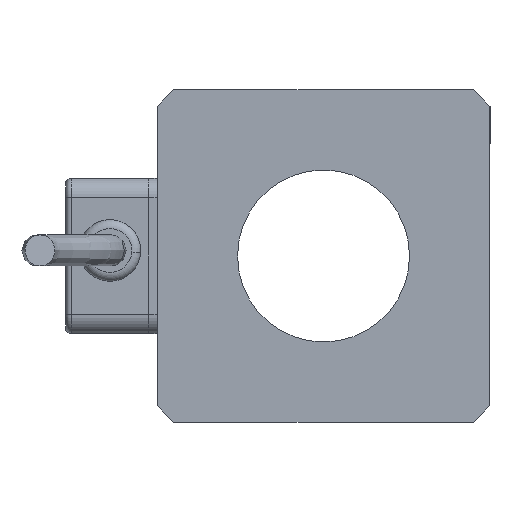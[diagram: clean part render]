
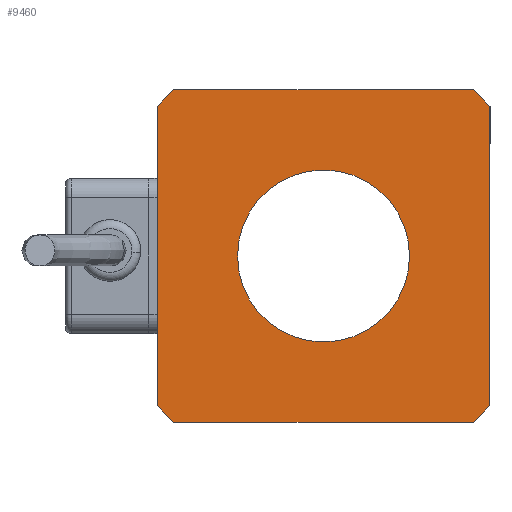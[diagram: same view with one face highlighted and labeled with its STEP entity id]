
A CAD part, left-side view. The second image highlights one B-rep face of the part: STEP entity #9460.
In plain terms, the highlighted planar face has unit normal (-1, 0, 0).
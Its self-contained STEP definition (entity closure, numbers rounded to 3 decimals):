
#5 = EDGE_CURVE ( 'NONE', #9505, #9610, #5671, .T. ) ;
#144 = LINE ( 'NONE', #1453, #3889 ) ;
#565 = EDGE_LOOP ( 'NONE', ( #4232, #2871 ) ) ;
#726 = VERTEX_POINT ( 'NONE', #8442 ) ;
#785 = DIRECTION ( 'NONE',  ( 1., 0., 0. ) ) ;
#815 = CARTESIAN_POINT ( 'NONE',  ( -36., 0., 15.5 ) ) ;
#831 = CIRCLE ( 'NONE', #6227, 15.5 ) ;
#1006 = VERTEX_POINT ( 'NONE', #3938 ) ;
#1015 = VERTEX_POINT ( 'NONE', #7957 ) ;
#1213 = CARTESIAN_POINT ( 'NONE',  ( -36., 0., -15.5 ) ) ;
#1215 = VERTEX_POINT ( 'NONE', #5899 ) ;
#1218 = DIRECTION ( 'NONE',  ( 0., -1., 0. ) ) ;
#1369 = EDGE_CURVE ( 'NONE', #3732, #726, #144, .T. ) ;
#1453 = CARTESIAN_POINT ( 'NONE',  ( -36., -30., 30. ) ) ;
#1475 = ORIENTED_EDGE ( 'NONE', *, *, #2395, .T. ) ;
#1481 = DIRECTION ( 'NONE',  ( 0., 0., -1. ) ) ;
#1639 = ORIENTED_EDGE ( 'NONE', *, *, #5, .T. ) ;
#1762 = VECTOR ( 'NONE', #4129, 1000. ) ;
#1816 = VECTOR ( 'NONE', #1218, 1000. ) ;
#2157 = VERTEX_POINT ( 'NONE', #1213 ) ;
#2379 = DIRECTION ( 'NONE',  ( 1., 0., 0. ) ) ;
#2395 = EDGE_CURVE ( 'NONE', #8603, #726, #7653, .T. ) ;
#2871 = ORIENTED_EDGE ( 'NONE', *, *, #7952, .T. ) ;
#2927 = ORIENTED_EDGE ( 'NONE', *, *, #1369, .F. ) ;
#2977 = DIRECTION ( 'NONE',  ( 0., -0.707, -0.707 ) ) ;
#3451 = DIRECTION ( 'NONE',  ( 0., 0.707, -0.707 ) ) ;
#3732 = VERTEX_POINT ( 'NONE', #6050 ) ;
#3733 = VECTOR ( 'NONE', #8245, 1000. ) ;
#3889 = VECTOR ( 'NONE', #1481, 1000. ) ;
#3938 = CARTESIAN_POINT ( 'NONE',  ( -36., 27., 30. ) ) ;
#4082 = CARTESIAN_POINT ( 'NONE',  ( -36., -27., 30. ) ) ;
#4085 = CARTESIAN_POINT ( 'NONE',  ( -36., 0., 0. ) ) ;
#4109 = CARTESIAN_POINT ( 'NONE',  ( -36., -27., -30. ) ) ;
#4129 = DIRECTION ( 'NONE',  ( 0., -0.707, 0.707 ) ) ;
#4153 = EDGE_CURVE ( 'NONE', #1006, #1215, #5911, .T. ) ;
#4232 = ORIENTED_EDGE ( 'NONE', *, *, #5982, .T. ) ;
#4293 = LINE ( 'NONE', #8865, #6344 ) ;
#4311 = DIRECTION ( 'NONE',  ( 0., 1., 0. ) ) ;
#4361 = DIRECTION ( 'NONE',  ( 0., 0., 1. ) ) ;
#4764 = CARTESIAN_POINT ( 'NONE',  ( -36., 30., -27. ) ) ;
#4870 = DIRECTION ( 'NONE',  ( 0., 0., -1. ) ) ;
#5279 = EDGE_CURVE ( 'NONE', #3732, #1215, #9874, .T. ) ;
#5357 = LINE ( 'NONE', #5785, #9239 ) ;
#5363 = CARTESIAN_POINT ( 'NONE',  ( -36., 0., 0. ) ) ;
#5600 = LINE ( 'NONE', #9728, #9679 ) ;
#5671 = LINE ( 'NONE', #6114, #9741 ) ;
#5674 = ORIENTED_EDGE ( 'NONE', *, *, #8764, .F. ) ;
#5753 = EDGE_CURVE ( 'NONE', #9505, #1015, #5600, .T. ) ;
#5785 = CARTESIAN_POINT ( 'NONE',  ( -36., 30., -30. ) ) ;
#5837 = FACE_OUTER_BOUND ( 'NONE', #9449, .T. ) ;
#5899 = CARTESIAN_POINT ( 'NONE',  ( -36., -27., 30. ) ) ;
#5911 = LINE ( 'NONE', #6606, #1816 ) ;
#5982 = EDGE_CURVE ( 'NONE', #2157, #6035, #8612, .T. ) ;
#6035 = VERTEX_POINT ( 'NONE', #815 ) ;
#6050 = CARTESIAN_POINT ( 'NONE',  ( -36., -30., 27. ) ) ;
#6065 = ORIENTED_EDGE ( 'NONE', *, *, #4153, .F. ) ;
#6114 = CARTESIAN_POINT ( 'NONE',  ( -36., 27., -30. ) ) ;
#6160 = DIRECTION ( 'NONE',  ( 0., 0., -1. ) ) ;
#6227 = AXIS2_PLACEMENT_3D ( 'NONE', #4085, #9475, #4870 ) ;
#6344 = VECTOR ( 'NONE', #3451, 1000. ) ;
#6606 = CARTESIAN_POINT ( 'NONE',  ( -36., 30., 30. ) ) ;
#6986 = CARTESIAN_POINT ( 'NONE',  ( -36., 0., 0. ) ) ;
#7103 = ORIENTED_EDGE ( 'NONE', *, *, #8724, .T. ) ;
#7578 = ORIENTED_EDGE ( 'NONE', *, *, #5753, .F. ) ;
#7653 = LINE ( 'NONE', #8756, #1762 ) ;
#7749 = DIRECTION ( 'NONE',  ( 0., 0., -1. ) ) ;
#7881 = FACE_BOUND ( 'NONE', #565, .T. ) ;
#7952 = EDGE_CURVE ( 'NONE', #6035, #2157, #831, .T. ) ;
#7957 = CARTESIAN_POINT ( 'NONE',  ( -36., 30., 27. ) ) ;
#8245 = DIRECTION ( 'NONE',  ( 0., 0.707, 0.707 ) ) ;
#8442 = CARTESIAN_POINT ( 'NONE',  ( -36., -30., -27. ) ) ;
#8496 = PLANE ( 'NONE',  #9579 ) ;
#8603 = VERTEX_POINT ( 'NONE', #4109 ) ;
#8612 = CIRCLE ( 'NONE', #9186, 15.5 ) ;
#8724 = EDGE_CURVE ( 'NONE', #1006, #1015, #4293, .T. ) ;
#8756 = CARTESIAN_POINT ( 'NONE',  ( -36., -30., -27. ) ) ;
#8764 = EDGE_CURVE ( 'NONE', #8603, #9610, #5357, .T. ) ;
#8865 = CARTESIAN_POINT ( 'NONE',  ( -36., 30., 27. ) ) ;
#8880 = CARTESIAN_POINT ( 'NONE',  ( -36., 27., -30. ) ) ;
#9186 = AXIS2_PLACEMENT_3D ( 'NONE', #5363, #785, #6160 ) ;
#9239 = VECTOR ( 'NONE', #4311, 1000. ) ;
#9449 = EDGE_LOOP ( 'NONE', ( #7578, #1639, #5674, #1475, #2927, #9530, #6065, #7103 ) ) ;
#9460 = ADVANCED_FACE ( 'NONE', ( #7881, #5837 ), #8496, .F. ) ;
#9475 = DIRECTION ( 'NONE',  ( 1., 0., 0. ) ) ;
#9505 = VERTEX_POINT ( 'NONE', #4764 ) ;
#9530 = ORIENTED_EDGE ( 'NONE', *, *, #5279, .T. ) ;
#9579 = AXIS2_PLACEMENT_3D ( 'NONE', #6986, #2379, #7749 ) ;
#9610 = VERTEX_POINT ( 'NONE', #8880 ) ;
#9679 = VECTOR ( 'NONE', #4361, 1000. ) ;
#9728 = CARTESIAN_POINT ( 'NONE',  ( -36., 30., 30. ) ) ;
#9741 = VECTOR ( 'NONE', #2977, 1000. ) ;
#9874 = LINE ( 'NONE', #4082, #3733 ) ;
